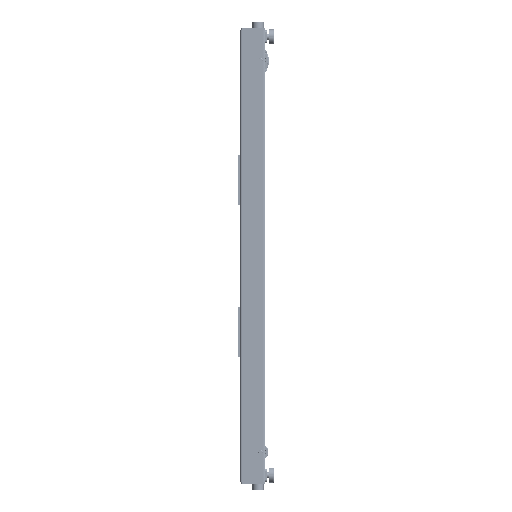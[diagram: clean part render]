
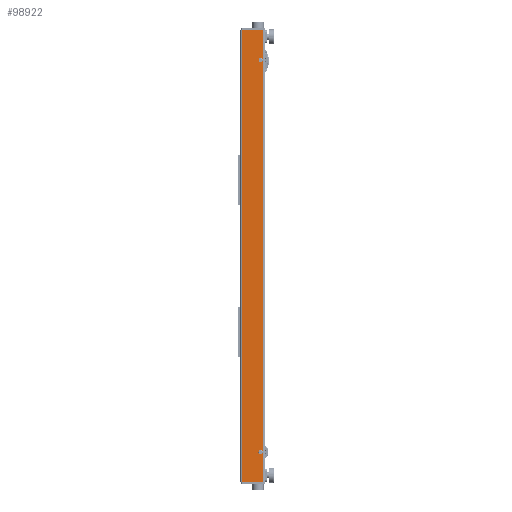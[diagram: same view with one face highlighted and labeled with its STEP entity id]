
A CAD part, left-side view. The second image highlights one B-rep face of the part: STEP entity #98922.
In plain terms, the highlighted planar face has unit normal (-1, 0, 0).
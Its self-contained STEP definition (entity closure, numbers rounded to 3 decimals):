
#168 = VECTOR ( 'NONE', #146707, 1000. ) ;
#3358 = ORIENTED_EDGE ( 'NONE', *, *, #25554, .T. ) ;
#5177 = DIRECTION ( 'NONE',  ( 1., 0., 0. ) ) ;
#5824 = EDGE_CURVE ( 'NONE', #130050, #106889, #19808, .T. ) ;
#7292 = PLANE ( 'NONE',  #155543 ) ;
#8543 = VERTEX_POINT ( 'NONE', #112206 ) ;
#10082 = EDGE_CURVE ( 'NONE', #106889, #130050, #84554, .T. ) ;
#16929 = LINE ( 'NONE', #102865, #77622 ) ;
#17665 = EDGE_CURVE ( 'NONE', #115427, #126407, #37456, .T. ) ;
#19808 = CIRCLE ( 'NONE', #90368, 12.51 ) ;
#20473 = CARTESIAN_POINT ( 'NONE',  ( -12.7, 127., -1360.488 ) ) ;
#24572 = CARTESIAN_POINT ( 'NONE',  ( -12.7, 28.893, 1179.843 ) ) ;
#25554 = EDGE_CURVE ( 'NONE', #127554, #150056, #55468, .T. ) ;
#28574 = ORIENTED_EDGE ( 'NONE', *, *, #10082, .T. ) ;
#30307 = DIRECTION ( 'NONE',  ( 0., 0., -1. ) ) ;
#32469 = CARTESIAN_POINT ( 'NONE',  ( -12.7, 0., 1360.488 ) ) ;
#33207 = CARTESIAN_POINT ( 'NONE',  ( -12.7, 16.383, 1179.843 ) ) ;
#37456 = CIRCLE ( 'NONE', #110565, 12.51 ) ;
#38688 = ORIENTED_EDGE ( 'NONE', *, *, #103479, .T. ) ;
#39427 = CARTESIAN_POINT ( 'NONE',  ( -12.7, 0., 1360.488 ) ) ;
#40606 = CARTESIAN_POINT ( 'NONE',  ( -12.7, 3.873, 1179.843 ) ) ;
#48084 = VECTOR ( 'NONE', #140354, 1000. ) ;
#48548 = CARTESIAN_POINT ( 'NONE',  ( -12.7, 3.873, -1181.113 ) ) ;
#52512 = CARTESIAN_POINT ( 'NONE',  ( -12.7, 16.383, -1181.113 ) ) ;
#52864 = ORIENTED_EDGE ( 'NONE', *, *, #5824, .T. ) ;
#55413 = CARTESIAN_POINT ( 'NONE',  ( -12.7, 28.893, -1181.113 ) ) ;
#55468 = LINE ( 'NONE', #67250, #75839 ) ;
#62563 = ORIENTED_EDGE ( 'NONE', *, *, #102157, .F. ) ;
#64858 = FACE_BOUND ( 'NONE', #81843, .T. ) ;
#65814 = DIRECTION ( 'NONE',  ( 0., 1., 0. ) ) ;
#65815 = AXIS2_PLACEMENT_3D ( 'NONE', #33207, #82824, #130214 ) ;
#67199 = FACE_BOUND ( 'NONE', #68519, .T. ) ;
#67250 = CARTESIAN_POINT ( 'NONE',  ( -12.7, 127., 1360.488 ) ) ;
#68519 = EDGE_LOOP ( 'NONE', ( #52864, #28574 ) ) ;
#68796 = DIRECTION ( 'NONE',  ( 0., 0., -1. ) ) ;
#75839 = VECTOR ( 'NONE', #68796, 1000. ) ;
#77604 = CARTESIAN_POINT ( 'NONE',  ( -12.7, 16.383, 1179.843 ) ) ;
#77622 = VECTOR ( 'NONE', #30307, 1000. ) ;
#78097 = CARTESIAN_POINT ( 'NONE',  ( -12.7, 16.383, -1181.113 ) ) ;
#81843 = EDGE_LOOP ( 'NONE', ( #137010, #38688 ) ) ;
#82702 = CARTESIAN_POINT ( 'NONE',  ( -12.7, 0., -1360.488 ) ) ;
#82824 = DIRECTION ( 'NONE',  ( 1., 0., 0. ) ) ;
#83410 = CIRCLE ( 'NONE', #65815, 12.51 ) ;
#84554 = CIRCLE ( 'NONE', #92171, 12.51 ) ;
#89173 = DIRECTION ( 'NONE',  ( 0., 1., 0. ) ) ;
#90368 = AXIS2_PLACEMENT_3D ( 'NONE', #78097, #116004, #89173 ) ;
#92171 = AXIS2_PLACEMENT_3D ( 'NONE', #52512, #5177, #100613 ) ;
#97736 = EDGE_CURVE ( 'NONE', #8543, #119286, #16929, .T. ) ;
#98618 = LINE ( 'NONE', #39427, #168 ) ;
#98922 = ADVANCED_FACE ( 'NONE', ( #67199, #64858, #115326 ), #7292, .F. ) ;
#100613 = DIRECTION ( 'NONE',  ( 0., 1., 0. ) ) ;
#102157 = EDGE_CURVE ( 'NONE', #127554, #8543, #98618, .T. ) ;
#102865 = CARTESIAN_POINT ( 'NONE',  ( -12.7, 0., 1360.488 ) ) ;
#103479 = EDGE_CURVE ( 'NONE', #126407, #115427, #83410, .T. ) ;
#106889 = VERTEX_POINT ( 'NONE', #48548 ) ;
#110565 = AXIS2_PLACEMENT_3D ( 'NONE', #77604, #145674, #65814 ) ;
#111428 = EDGE_LOOP ( 'NONE', ( #137629, #124464, #62563, #3358 ) ) ;
#112206 = CARTESIAN_POINT ( 'NONE',  ( -12.7, 0., 1360.488 ) ) ;
#115326 = FACE_OUTER_BOUND ( 'NONE', #111428, .T. ) ;
#115427 = VERTEX_POINT ( 'NONE', #24572 ) ;
#116004 = DIRECTION ( 'NONE',  ( 1., 0., 0. ) ) ;
#119286 = VERTEX_POINT ( 'NONE', #126818 ) ;
#124464 = ORIENTED_EDGE ( 'NONE', *, *, #97736, .F. ) ;
#126407 = VERTEX_POINT ( 'NONE', #40606 ) ;
#126818 = CARTESIAN_POINT ( 'NONE',  ( -12.7, 0., -1360.488 ) ) ;
#127554 = VERTEX_POINT ( 'NONE', #150525 ) ;
#129475 = DIRECTION ( 'NONE',  ( 0., 1., 0. ) ) ;
#130050 = VERTEX_POINT ( 'NONE', #55413 ) ;
#130214 = DIRECTION ( 'NONE',  ( 0., 1., 0. ) ) ;
#131022 = DIRECTION ( 'NONE',  ( 1., 0., 0. ) ) ;
#137010 = ORIENTED_EDGE ( 'NONE', *, *, #17665, .T. ) ;
#137629 = ORIENTED_EDGE ( 'NONE', *, *, #144752, .T. ) ;
#140354 = DIRECTION ( 'NONE',  ( 0., -1., 0. ) ) ;
#141151 = LINE ( 'NONE', #82702, #48084 ) ;
#144752 = EDGE_CURVE ( 'NONE', #150056, #119286, #141151, .T. ) ;
#145674 = DIRECTION ( 'NONE',  ( 1., 0., 0. ) ) ;
#146707 = DIRECTION ( 'NONE',  ( 0., -1., 0. ) ) ;
#150056 = VERTEX_POINT ( 'NONE', #20473 ) ;
#150525 = CARTESIAN_POINT ( 'NONE',  ( -12.7, 127., 1360.488 ) ) ;
#155543 = AXIS2_PLACEMENT_3D ( 'NONE', #32469, #131022, #129475 ) ;
